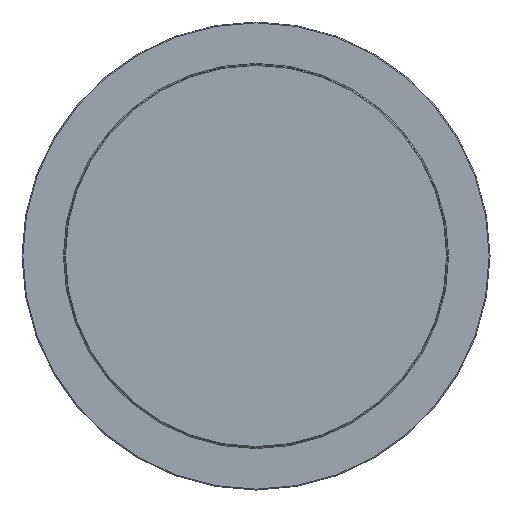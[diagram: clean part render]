
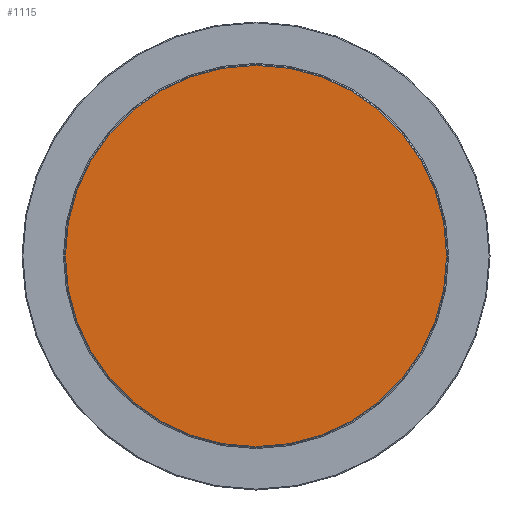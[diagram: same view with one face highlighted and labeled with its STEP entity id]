
A CAD part, left-side view. The second image highlights one B-rep face of the part: STEP entity #1115.
In plain terms, the highlighted planar face has unit normal (-1, 0, 0).
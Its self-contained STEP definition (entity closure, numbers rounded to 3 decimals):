
#1092=CARTESIAN_POINT('',(0.0,224.0,0.0));
#1093=VERTEX_POINT('',#1092);
#1094=CARTESIAN_POINT('',(0.0,0.0,0.0));
#1095=DIRECTION('',(1.0,0.0,0.0));
#1096=DIRECTION('',(0.0,-1.0,0.0));
#1097=AXIS2_PLACEMENT_3D('',#1094,#1095,#1096);
#1098=CIRCLE('',#1097,224.0);
#1099=EDGE_CURVE('',#1093,#1093,#1098,.T.);
#1107=CARTESIAN_POINT('',(0.0,170.319,0.));
#1108=DIRECTION('',(-1.0,0.0,0.0));
#1109=DIRECTION('',(0.0,0.0,1.0));
#1110=AXIS2_PLACEMENT_3D('',#1107,#1108,#1109);
#1111=PLANE('',#1110);
#1112=ORIENTED_EDGE('',*,*,#1099,.F.);
#1113=EDGE_LOOP('',(#1112));
#1114=FACE_OUTER_BOUND('',#1113,.T.);
#1115=ADVANCED_FACE('',(#1114),#1111,.T.);
